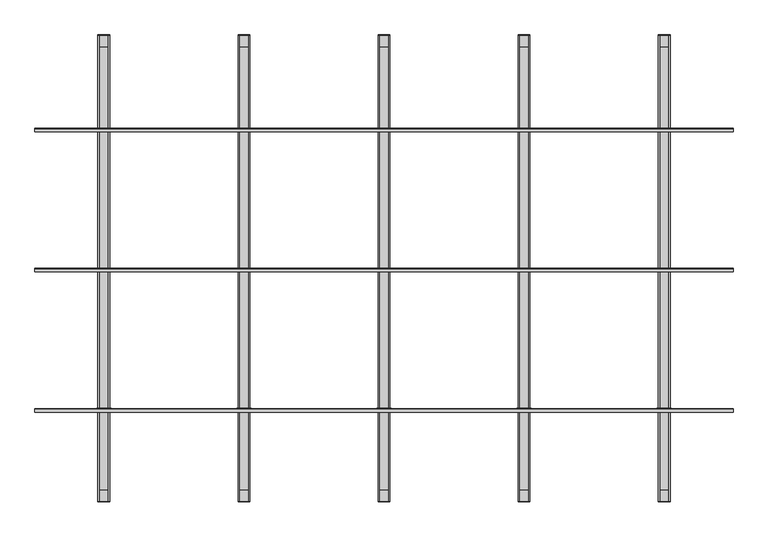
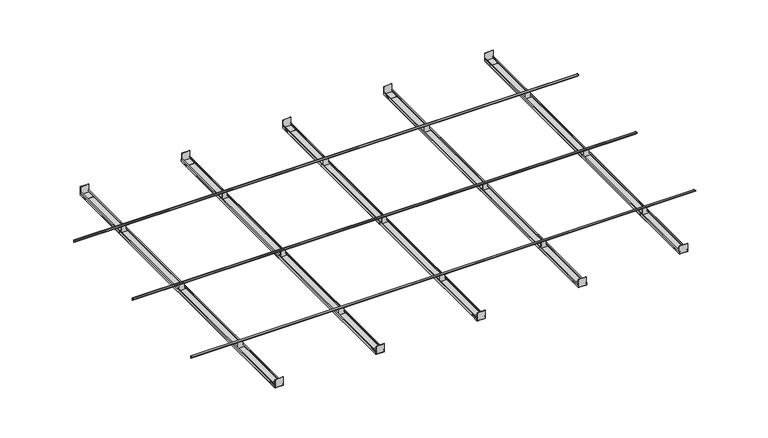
"""IFC4 building model written with IfcOpenShell, lengths in millimetres: proxy geometry, durlum_S5-100 _DOMUS : durlum_S5-100 _DOMUS."""

from ifc_helpers import new_model, si_unit, point, frame, frame_2d, origin, place, context, project, spatial, polyline, circle_curve, trimmed, segment, composite_curve, outline, extrude, source, transform, mapped, element, save


def generic_models_f9a1266b(model_context):
    return source(origin(), model_context, "Body", "SweptSolid", [
        extrude(outline(polyline([(1151.2053447, -1900.0), (1151.2053447, -1998.75), (1149.9553447, -1998.75), (1149.9553447, -1900.0), (1151.2053447, -1900.0)])), frame((0.0, 0.0, 3801.49723), z_axis=(0.0, 0.0, 1.0), x_axis=(1.0, 0.0, 0.0)), (0.0, 0.0, 1.0), 22.9482224),
        extrude(outline(polyline([(1248.7946553, -1900.0), (1250.0446553, -1900.0), (1250.0446553, -1998.75), (1248.7946553, -1998.75), (1248.7946553, -1900.0)])), frame((0.0, 0.0, 3801.49723), z_axis=(0.0, 0.0, 1.0), x_axis=(1.0, 0.0, 0.0)), (0.0, 0.0, 1.0), 22.9482224),
        extrude(outline(polyline([(-2000.0, 3801.49723), (-2000.0, 3901.49723), (-1998.75, 3901.49723), (-1998.75, 3802.74723), (-1900.0, 3802.74723), (-1900.0, 3801.49723), (-2000.0, 3801.49723)])), frame((1151.2053447, 0.0, 0.0), z_axis=(1.0, 0.0, 0.0), x_axis=(0.0, 1.0, 0.0)), (0.0, 0.0, 1.0), 97.5893106),
        extrude(outline(polyline([(-48.7946553, -1900.0), (-48.7946553, -1998.75), (-50.0446553, -1998.75), (-50.0446553, -1900.0), (-48.7946553, -1900.0)])), frame((0.0, 0.0, 3801.4981533), z_axis=(0.0, 0.0, 1.0), x_axis=(1.0, 0.0, 0.0)), (0.0, 0.0, 1.0), 22.9482224),
        extrude(outline(polyline([(48.7946553, -1900.0), (50.0446553, -1900.0), (50.0446553, -1998.75), (48.7946553, -1998.75), (48.7946553, -1900.0)])), frame((0.0, 0.0, 3801.4981533), z_axis=(0.0, 0.0, 1.0), x_axis=(1.0, 0.0, 0.0)), (0.0, 0.0, 1.0), 22.9482224),
        extrude(outline(polyline([(-2000.0, 3801.4981533), (-2000.0, 3901.4981533), (-1998.75, 3901.4981533), (-1998.75, 3802.7481533), (-1900.0, 3802.7481533), (-1900.0, 3801.4981533), (-2000.0, 3801.4981533)])), frame((-48.7946553, 0.0, 0.0), z_axis=(1.0, 0.0, 0.0), x_axis=(0.0, 1.0, 0.0)), (0.0, 0.0, 1.0), 97.5893106),
        extrude(outline(polyline([(1248.7946553, 1900.0), (1248.7946553, 1998.75), (1250.0446553, 1998.75), (1250.0446553, 1900.0), (1248.7946553, 1900.0)])), frame((0.0, 0.0, 3801.496446), z_axis=(0.0, 0.0, 1.0), x_axis=(1.0, 0.0, 0.0)), (0.0, 0.0, 1.0), 22.9482224),
        extrude(outline(polyline([(1151.2053447, 1900.0), (1149.9553447, 1900.0), (1149.9553447, 1998.75), (1151.2053447, 1998.75), (1151.2053447, 1900.0)])), frame((0.0, 0.0, 3801.496446), z_axis=(0.0, 0.0, 1.0), x_axis=(1.0, 0.0, 0.0)), (0.0, 0.0, 1.0), 22.9482224),
        extrude(outline(polyline([(2000.0, 3801.496446), (1900.0, 3801.496446), (1900.0, 3802.746446), (1998.75, 3802.746446), (1998.75, 3901.496446), (2000.0, 3901.496446), (2000.0, 3801.496446)])), frame((1151.2053447, 0.0, 0.0), z_axis=(1.0, 0.0, 0.0), x_axis=(0.0, 1.0, 0.0)), (0.0, 0.0, 1.0), 97.5893106),
        extrude(outline(polyline([(48.7946553, 1900.0), (48.7946553, 1998.75), (50.0446553, 1998.75), (50.0446553, 1900.0), (48.7946553, 1900.0)])), frame((0.0, 0.0, 3801.4976307), z_axis=(0.0, 0.0, 1.0), x_axis=(1.0, 0.0, 0.0)), (0.0, 0.0, 1.0), 22.9482224),
        extrude(outline(polyline([(-48.7946553, 1900.0), (-50.0446553, 1900.0), (-50.0446553, 1998.75), (-48.7946553, 1998.75), (-48.7946553, 1900.0)])), frame((0.0, 0.0, 3801.4976307), z_axis=(0.0, 0.0, 1.0), x_axis=(1.0, 0.0, 0.0)), (0.0, 0.0, 1.0), 22.9482224),
        extrude(outline(polyline([(2000.0, 3801.4976307), (1900.0, 3801.4976307), (1900.0, 3802.7476307), (1998.75, 3802.7476307), (1998.75, 3901.4976307), (2000.0, 3901.4976307), (2000.0, 3801.4976307)])), frame((-48.7946553, 0.0, 0.0), z_axis=(1.0, 0.0, 0.0), x_axis=(0.0, 1.0, 0.0)), (0.0, 0.0, 1.0), 97.5893106),
        extrude(outline(polyline([(3830.0, -1250.0), (3800.0, -1250.0), (3800.0, -1150.0), (3830.0, -1150.0), (3830.0, -1160.0), (3829.0, -1160.0), (3829.0, -1151.0), (3801.0, -1151.0), (3801.0, -1249.0), (3829.0, -1249.0), (3829.0, -1240.0), (3830.0, -1240.0), (3830.0, -1250.0)])), frame((0.0, -2000.0, 0.0), z_axis=(0.0, 1.0, 0.0), x_axis=(0.0, 0.0, 1.0)), (0.0, 0.0, 1.0), 4000.0),
        extrude(outline(polyline([(3830.0, -50.0), (3800.0, -50.0), (3800.0, 50.0), (3830.0, 50.0), (3830.0, 40.0), (3829.0, 40.0), (3829.0, 49.0), (3801.0, 49.0), (3801.0, -49.0), (3829.0, -49.0), (3829.0, -40.0), (3830.0, -40.0), (3830.0, -50.0)])), frame((0.0, -2000.0, 0.0), z_axis=(0.0, 1.0, 0.0), x_axis=(0.0, 0.0, 1.0)), (0.0, 0.0, 1.0), 4000.0),
        extrude(outline(polyline([(-1151.2053447, 1900.0), (-1151.2053447, 1998.75), (-1149.9553447, 1998.75), (-1149.9553447, 1900.0), (-1151.2053447, 1900.0)])), frame((0.0, 0.0, 3801.4988153), z_axis=(0.0, 0.0, 1.0), x_axis=(1.0, 0.0, 0.0)), (0.0, 0.0, 1.0), 22.9482224),
        extrude(outline(polyline([(-1248.7946553, 1900.0), (-1250.0446553, 1900.0), (-1250.0446553, 1998.75), (-1248.7946553, 1998.75), (-1248.7946553, 1900.0)])), frame((0.0, 0.0, 3801.4988153), z_axis=(0.0, 0.0, 1.0), x_axis=(1.0, 0.0, 0.0)), (0.0, 0.0, 1.0), 22.9482224),
        extrude(outline(polyline([(2000.0, 3801.4988153), (1900.0, 3801.4988153), (1900.0, 3802.7488153), (1998.75, 3802.7488153), (1998.75, 3901.4988153), (2000.0, 3901.4988153), (2000.0, 3801.4988153)])), frame((-1248.7946553, 0.0, 0.0), z_axis=(1.0, 0.0, 0.0), x_axis=(0.0, 1.0, 0.0)), (0.0, 0.0, 1.0), 97.5893106),
        extrude(outline(polyline([(-1248.7946553, -1900.0), (-1248.7946553, -1998.75), (-1250.0446553, -1998.75), (-1250.0446553, -1900.0), (-1248.7946553, -1900.0)])), frame((0.0, 0.0, 3801.4990767), z_axis=(0.0, 0.0, 1.0), x_axis=(1.0, 0.0, 0.0)), (0.0, 0.0, 1.0), 22.9482224),
        extrude(outline(polyline([(-1151.2053447, -1900.0), (-1149.9553447, -1900.0), (-1149.9553447, -1998.75), (-1151.2053447, -1998.75), (-1151.2053447, -1900.0)])), frame((0.0, 0.0, 3801.4990767), z_axis=(0.0, 0.0, 1.0), x_axis=(1.0, 0.0, 0.0)), (0.0, 0.0, 1.0), 22.9482224),
        extrude(outline(polyline([(-2000.0, 3801.4990767), (-2000.0, 3901.4990767), (-1998.75, 3901.4990767), (-1998.75, 3802.7490767), (-1900.0, 3802.7490767), (-1900.0, 3801.4990767), (-2000.0, 3801.4990767)])), frame((-1248.7946553, 0.0, 0.0), z_axis=(1.0, 0.0, 0.0), x_axis=(0.0, 1.0, 0.0)), (0.0, 0.0, 1.0), 97.5893106),
        extrude(outline(polyline([(2351.2053447, -1900.0), (2351.2053447, -1998.75), (2349.9553447, -1998.75), (2349.9553447, -1900.0), (2351.2053447, -1900.0)])), frame((0.0, 0.0, 3801.4963067), z_axis=(0.0, 0.0, 1.0), x_axis=(1.0, 0.0, 0.0)), (0.0, 0.0, 1.0), 22.9482224),
        extrude(outline(polyline([(2448.7946553, -1900.0), (2450.0446553, -1900.0), (2450.0446553, -1998.75), (2448.7946553, -1998.75), (2448.7946553, -1900.0)])), frame((0.0, 0.0, 3801.4963067), z_axis=(0.0, 0.0, 1.0), x_axis=(1.0, 0.0, 0.0)), (0.0, 0.0, 1.0), 22.9482224),
        extrude(outline(polyline([(-2000.0, 3801.4963067), (-2000.0, 3901.4963067), (-1998.75, 3901.4963067), (-1998.75, 3802.7463067), (-1900.0, 3802.7463067), (-1900.0, 3801.4963067), (-2000.0, 3801.4963067)])), frame((2351.2053447, 0.0, 0.0), z_axis=(1.0, 0.0, 0.0), x_axis=(0.0, 1.0, 0.0)), (0.0, 0.0, 1.0), 97.5893106),
        extrude(outline(polyline([(2448.7946553, 1900.0), (2448.7946553, 1998.75), (2450.0446553, 1998.75), (2450.0446553, 1900.0), (2448.7946553, 1900.0)])), frame((0.0, 0.0, 3801.4952613), z_axis=(0.0, 0.0, 1.0), x_axis=(1.0, 0.0, 0.0)), (0.0, 0.0, 1.0), 22.9482224),
        extrude(outline(polyline([(2351.2053447, 1900.0), (2349.9553447, 1900.0), (2349.9553447, 1998.75), (2351.2053447, 1998.75), (2351.2053447, 1900.0)])), frame((0.0, 0.0, 3801.4952613), z_axis=(0.0, 0.0, 1.0), x_axis=(1.0, 0.0, 0.0)), (0.0, 0.0, 1.0), 22.9482224),
        extrude(outline(polyline([(2000.0, 3801.4952613), (1900.0, 3801.4952613), (1900.0, 3802.7452613), (1998.75, 3802.7452613), (1998.75, 3901.4952613), (2000.0, 3901.4952613), (2000.0, 3801.4952613)])), frame((2351.2053447, 0.0, 0.0), z_axis=(1.0, 0.0, 0.0), x_axis=(0.0, 1.0, 0.0)), (0.0, 0.0, 1.0), 97.5893106),
        extrude(outline(polyline([(-2448.7946553, -1900.0), (-2448.7946553, -1998.75), (-2450.0446553, -1998.75), (-2450.0446553, -1900.0), (-2448.7946553, -1900.0)])), frame((0.0, 0.0, 3801.5), z_axis=(0.0, 0.0, 1.0), x_axis=(1.0, 0.0, 0.0)), (0.0, 0.0, 1.0), 22.9482224),
        extrude(outline(polyline([(-2351.2053447, -1900.0), (-2349.9553447, -1900.0), (-2349.9553447, -1998.75), (-2351.2053447, -1998.75), (-2351.2053447, -1900.0)])), frame((0.0, 0.0, 3801.5), z_axis=(0.0, 0.0, 1.0), x_axis=(1.0, 0.0, 0.0)), (0.0, 0.0, 1.0), 22.9482224),
        extrude(outline(polyline([(-2000.0, 3801.5), (-2000.0, 3901.5), (-1998.75, 3901.5), (-1998.75, 3802.75), (-1900.0, 3802.75), (-1900.0, 3801.5), (-2000.0, 3801.5)])), frame((-2448.7946553, 0.0, 0.0), z_axis=(1.0, 0.0, 0.0), x_axis=(0.0, 1.0, 0.0)), (0.0, 0.0, 1.0), 97.5893106),
        extrude(outline(polyline([(-2351.2053447, 1900.0), (-2351.2053447, 1998.75), (-2349.9553447, 1998.75), (-2349.9553447, 1900.0), (-2351.2053447, 1900.0)])), frame((0.0, 0.0, 3801.5), z_axis=(0.0, 0.0, 1.0), x_axis=(1.0, 0.0, 0.0)), (0.0, 0.0, 1.0), 22.9482224),
        extrude(outline(polyline([(-2448.7946553, 1900.0), (-2450.0446553, 1900.0), (-2450.0446553, 1998.75), (-2448.7946553, 1998.75), (-2448.7946553, 1900.0)])), frame((0.0, 0.0, 3801.5), z_axis=(0.0, 0.0, 1.0), x_axis=(1.0, 0.0, 0.0)), (0.0, 0.0, 1.0), 22.9482224),
        extrude(outline(polyline([(2000.0, 3801.5), (1900.0, 3801.5), (1900.0, 3802.75), (1998.75, 3802.75), (1998.75, 3901.5), (2000.0, 3901.5), (2000.0, 3801.5)])), frame((-2448.7946553, 0.0, 0.0), z_axis=(1.0, 0.0, 0.0), x_axis=(0.0, 1.0, 0.0)), (0.0, 0.0, 1.0), 97.5893106),
        extrude(outline(polyline([(3825.0, -1151.7190114), (3825.0, -1153.1717956), (3820.9590465, -1153.1717956), (3820.9590465, -1171.9750683), (3872.9865783, -1171.9750683), (3872.9865783, -1137.653609), (3900.0, -1137.653609), (3900.0, -1262.346391), (3872.9865783, -1262.346391), (3872.9865783, -1228.0249317), (3820.9590465, -1228.0249317), (3820.9590465, -1246.8282044), (3825.0, -1246.8282044), (3825.0, -1248.2809886), (3800.0, -1248.2809886), (3800.0, -1151.7190114), (3825.0, -1151.7190114)])), frame((0.0, 0.0, 0.0), z_axis=(0.0, 1.0, 0.0), x_axis=(0.0, 0.0, 1.0)), (0.0, 0.0, 1.0), 1.9953756),
        extrude(outline(polyline([(3825.0, 48.2809886), (3825.0, 46.8282044), (3820.9590465, 46.8282044), (3820.9590465, 28.0249317), (3872.9865783, 28.0249317), (3872.9865783, 62.346391), (3900.0, 62.346391), (3900.0, -62.346391), (3872.9865783, -62.346391), (3872.9865783, -28.0249317), (3820.9590465, -28.0249317), (3820.9590465, -46.8282044), (3825.0, -46.8282044), (3825.0, -48.2809886), (3800.0, -48.2809886), (3800.0, 48.2809886), (3825.0, 48.2809886)])), frame((0.0, 0.0, 0.0), z_axis=(0.0, 1.0, 0.0), x_axis=(0.0, 0.0, 1.0)), (0.0, 0.0, 1.0), 1.9953756),
        extrude(outline(polyline([(3825.0, 1248.2809886), (3825.0, 1246.8282044), (3820.9590465, 1246.8282044), (3820.9590465, 1228.0249317), (3872.9865783, 1228.0249317), (3872.9865783, 1262.346391), (3900.0, 1262.346391), (3900.0, 1137.653609), (3872.9865783, 1137.653609), (3872.9865783, 1171.9750683), (3820.9590465, 1171.9750683), (3820.9590465, 1153.1717956), (3825.0, 1153.1717956), (3825.0, 1151.7190114), (3800.0, 1151.7190114), (3800.0, 1248.2809886), (3825.0, 1248.2809886)])), frame((0.0, 0.0, 0.0), z_axis=(0.0, 1.0, 0.0), x_axis=(0.0, 0.0, 1.0)), (0.0, 0.0, 1.0), 1.9953756),
        extrude(outline(polyline([(3825.0, -2351.7190114), (3825.0, -2353.1717956), (3820.9590465, -2353.1717956), (3820.9590465, -2371.9750683), (3872.9865783, -2371.9750683), (3872.9865783, -2337.653609), (3900.0, -2337.653609), (3900.0, -2462.346391), (3872.9865783, -2462.346391), (3872.9865783, -2428.0249317), (3820.9590465, -2428.0249317), (3820.9590465, -2446.8282044), (3825.0, -2446.8282044), (3825.0, -2448.2809886), (3800.0, -2448.2809886), (3800.0, -2351.7190114), (3825.0, -2351.7190114)])), frame((0.0, 0.0, 0.0), z_axis=(0.0, 1.0, 0.0), x_axis=(0.0, 0.0, 1.0)), (0.0, 0.0, 1.0), 1.9953756),
        extrude(outline(polyline([(3825.0, 2448.2809886), (3825.0, 2446.8282044), (3820.9590465, 2446.8282044), (3820.9590465, 2428.0249317), (3872.9865783, 2428.0249317), (3872.9865783, 2462.346391), (3900.0, 2462.346391), (3900.0, 2337.653609), (3872.9865783, 2337.653609), (3872.9865783, 2371.9750683), (3820.9590465, 2371.9750683), (3820.9590465, 2353.1717956), (3825.0, 2353.1717956), (3825.0, 2351.7190114), (3800.0, 2351.7190114), (3800.0, 2448.2809886), (3825.0, 2448.2809886)])), frame((0.0, 0.0, 0.0), z_axis=(0.0, 1.0, 0.0), x_axis=(0.0, 0.0, 1.0)), (0.0, 0.0, 1.0), 1.9953756),
        extrude(outline(composite_curve([segment(polyline([(-2.0, 3876.1), (-2.0, 3902.0)]), True, "CONTINUOUS"), segment(trimmed(circle_curve(frame_2d((-4.0, 3902.0)), 2.0), [point((-2.0, 3902.0))], [point((-4.0, 3904.0))], True, "CARTESIAN"), True, "CONTINUOUS"), segment(polyline([(-4.0, 3904.0), (-29.9, 3904.0), (-29.9, 3906.0), (-4.0, 3906.0)]), True, "CONTINUOUS"), segment(trimmed(circle_curve(frame_2d((-4.0, 3902.0)), 4.0), [point((-4.0, 3906.0))], [point((0.0, 3902.0))], False, "CARTESIAN"), True, "CONTINUOUS"), segment(polyline([(0.0, 3902.0), (0.0, 3876.1), (-2.0, 3876.1)]), True, "CONTINUOUS")], self_intersect=False)), frame((-2990.0, 0.0, 0.0), z_axis=(1.0, 0.0, 0.0), x_axis=(0.0, 1.0, 0.0)), (0.0, 0.0, 1.0), 5980.0),
        extrude(outline(polyline([(3825.0, -1151.7190114), (3825.0, -1153.1717956), (3820.9590465, -1153.1717956), (3820.9590465, -1171.9750683), (3872.9865783, -1171.9750683), (3872.9865783, -1137.653609), (3900.0, -1137.653609), (3900.0, -1262.346391), (3872.9865783, -1262.346391), (3872.9865783, -1228.0249317), (3820.9590465, -1228.0249317), (3820.9590465, -1246.8282044), (3825.0, -1246.8282044), (3825.0, -1248.2809886), (3800.0, -1248.2809886), (3800.0, -1151.7190114), (3825.0, -1151.7190114)])), frame((0.0, -1200.0, 0.0), z_axis=(0.0, 1.0, 0.0), x_axis=(0.0, 0.0, 1.0)), (0.0, 0.0, 1.0), 1.9953756),
        extrude(outline(polyline([(3825.0, 48.2809886), (3825.0, 46.8282044), (3820.9590465, 46.8282044), (3820.9590465, 28.0249317), (3872.9865783, 28.0249317), (3872.9865783, 62.346391), (3900.0, 62.346391), (3900.0, -62.346391), (3872.9865783, -62.346391), (3872.9865783, -28.0249317), (3820.9590465, -28.0249317), (3820.9590465, -46.8282044), (3825.0, -46.8282044), (3825.0, -48.2809886), (3800.0, -48.2809886), (3800.0, 48.2809886), (3825.0, 48.2809886)])), frame((0.0, -1200.0, 0.0), z_axis=(0.0, 1.0, 0.0), x_axis=(0.0, 0.0, 1.0)), (0.0, 0.0, 1.0), 1.9953756),
        extrude(outline(polyline([(3825.0, 1248.2809886), (3825.0, 1246.8282044), (3820.9590465, 1246.8282044), (3820.9590465, 1228.0249317), (3872.9865783, 1228.0249317), (3872.9865783, 1262.346391), (3900.0, 1262.346391), (3900.0, 1137.653609), (3872.9865783, 1137.653609), (3872.9865783, 1171.9750683), (3820.9590465, 1171.9750683), (3820.9590465, 1153.1717956), (3825.0, 1153.1717956), (3825.0, 1151.7190114), (3800.0, 1151.7190114), (3800.0, 1248.2809886), (3825.0, 1248.2809886)])), frame((0.0, -1200.0, 0.0), z_axis=(0.0, 1.0, 0.0), x_axis=(0.0, 0.0, 1.0)), (0.0, 0.0, 1.0), 1.9953756),
        extrude(outline(polyline([(3825.0, -2351.7190114), (3825.0, -2353.1717956), (3820.9590465, -2353.1717956), (3820.9590465, -2371.9750683), (3872.9865783, -2371.9750683), (3872.9865783, -2337.653609), (3900.0, -2337.653609), (3900.0, -2462.346391), (3872.9865783, -2462.346391), (3872.9865783, -2428.0249317), (3820.9590465, -2428.0249317), (3820.9590465, -2446.8282044), (3825.0, -2446.8282044), (3825.0, -2448.2809886), (3800.0, -2448.2809886), (3800.0, -2351.7190114), (3825.0, -2351.7190114)])), frame((0.0, -1200.0, 0.0), z_axis=(0.0, 1.0, 0.0), x_axis=(0.0, 0.0, 1.0)), (0.0, 0.0, 1.0), 1.9953756),
        extrude(outline(polyline([(3825.0, 2448.2809886), (3825.0, 2446.8282044), (3820.9590465, 2446.8282044), (3820.9590465, 2428.0249317), (3872.9865783, 2428.0249317), (3872.9865783, 2462.346391), (3900.0, 2462.346391), (3900.0, 2337.653609), (3872.9865783, 2337.653609), (3872.9865783, 2371.9750683), (3820.9590465, 2371.9750683), (3820.9590465, 2353.1717956), (3825.0, 2353.1717956), (3825.0, 2351.7190114), (3800.0, 2351.7190114), (3800.0, 2448.2809886), (3825.0, 2448.2809886)])), frame((0.0, -1200.0, 0.0), z_axis=(0.0, 1.0, 0.0), x_axis=(0.0, 0.0, 1.0)), (0.0, 0.0, 1.0), 1.9953756),
        extrude(outline(composite_curve([segment(polyline([(-1202.0, 3876.1), (-1202.0, 3902.0)]), True, "CONTINUOUS"), segment(trimmed(circle_curve(frame_2d((-1204.0, 3902.0)), 2.0), [point((-1202.0, 3902.0))], [point((-1204.0, 3904.0))], True, "CARTESIAN"), True, "CONTINUOUS"), segment(polyline([(-1204.0, 3904.0), (-1229.9, 3904.0), (-1229.9, 3906.0), (-1204.0, 3906.0)]), True, "CONTINUOUS"), segment(trimmed(circle_curve(frame_2d((-1204.0, 3902.0)), 4.0), [point((-1204.0, 3906.0))], [point((-1200.0, 3902.0))], False, "CARTESIAN"), True, "CONTINUOUS"), segment(polyline([(-1200.0, 3902.0), (-1200.0, 3876.1), (-1202.0, 3876.1)]), True, "CONTINUOUS")], self_intersect=False)), frame((-2990.0, 0.0, 0.0), z_axis=(1.0, 0.0, 0.0), x_axis=(0.0, 1.0, 0.0)), (0.0, 0.0, 1.0), 5980.0),
        extrude(outline(polyline([(3830.0, 1150.0), (3800.0, 1150.0), (3800.0, 1250.0), (3830.0, 1250.0), (3830.0, 1240.0), (3829.0, 1240.0), (3829.0, 1249.0), (3801.0, 1249.0), (3801.0, 1151.0), (3829.0, 1151.0), (3829.0, 1160.0), (3830.0, 1160.0), (3830.0, 1150.0)])), frame((0.0, -2000.0, 0.0), z_axis=(0.0, 1.0, 0.0), x_axis=(0.0, 0.0, 1.0)), (0.0, 0.0, 1.0), 4000.0),
        extrude(outline(polyline([(3830.0, -2450.0), (3800.0, -2450.0), (3800.0, -2350.0), (3830.0, -2350.0), (3830.0, -2360.0), (3829.0, -2360.0), (3829.0, -2351.0), (3801.0, -2351.0), (3801.0, -2449.0), (3829.0, -2449.0), (3829.0, -2440.0), (3830.0, -2440.0), (3830.0, -2450.0)])), frame((0.0, -2000.0, 0.0), z_axis=(0.0, 1.0, 0.0), x_axis=(0.0, 0.0, 1.0)), (0.0, 0.0, 1.0), 4000.0),
        extrude(outline(polyline([(3830.0, 2350.0), (3800.0, 2350.0), (3800.0, 2450.0), (3830.0, 2450.0), (3830.0, 2440.0), (3829.0, 2440.0), (3829.0, 2449.0), (3801.0, 2449.0), (3801.0, 2351.0), (3829.0, 2351.0), (3829.0, 2360.0), (3830.0, 2360.0), (3830.0, 2350.0)])), frame((0.0, -2000.0, 0.0), z_axis=(0.0, 1.0, 0.0), x_axis=(0.0, 0.0, 1.0)), (0.0, 0.0, 1.0), 4000.0),
        extrude(outline(polyline([(3825.0, -1151.7190114), (3825.0, -1153.1717956), (3820.9590465, -1153.1717956), (3820.9590465, -1171.9750683), (3872.9865783, -1171.9750683), (3872.9865783, -1137.653609), (3900.0, -1137.653609), (3900.0, -1262.346391), (3872.9865783, -1262.346391), (3872.9865783, -1228.0249317), (3820.9590465, -1228.0249317), (3820.9590465, -1246.8282044), (3825.0, -1246.8282044), (3825.0, -1248.2809886), (3800.0, -1248.2809886), (3800.0, -1151.7190114), (3825.0, -1151.7190114)])), frame((0.0, 1200.0, 0.0), z_axis=(0.0, 1.0, 0.0), x_axis=(0.0, 0.0, 1.0)), (0.0, 0.0, 1.0), 1.9953756),
        extrude(outline(polyline([(3825.0, 48.2809886), (3825.0, 46.8282044), (3820.9590465, 46.8282044), (3820.9590465, 28.0249317), (3872.9865783, 28.0249317), (3872.9865783, 62.346391), (3900.0, 62.346391), (3900.0, -62.346391), (3872.9865783, -62.346391), (3872.9865783, -28.0249317), (3820.9590465, -28.0249317), (3820.9590465, -46.8282044), (3825.0, -46.8282044), (3825.0, -48.2809886), (3800.0, -48.2809886), (3800.0, 48.2809886), (3825.0, 48.2809886)])), frame((0.0, 1200.0, 0.0), z_axis=(0.0, 1.0, 0.0), x_axis=(0.0, 0.0, 1.0)), (0.0, 0.0, 1.0), 1.9953756),
        extrude(outline(polyline([(3825.0, 1248.2809886), (3825.0, 1246.8282044), (3820.9590465, 1246.8282044), (3820.9590465, 1228.0249317), (3872.9865783, 1228.0249317), (3872.9865783, 1262.346391), (3900.0, 1262.346391), (3900.0, 1137.653609), (3872.9865783, 1137.653609), (3872.9865783, 1171.9750683), (3820.9590465, 1171.9750683), (3820.9590465, 1153.1717956), (3825.0, 1153.1717956), (3825.0, 1151.7190114), (3800.0, 1151.7190114), (3800.0, 1248.2809886), (3825.0, 1248.2809886)])), frame((0.0, 1200.0, 0.0), z_axis=(0.0, 1.0, 0.0), x_axis=(0.0, 0.0, 1.0)), (0.0, 0.0, 1.0), 1.9953756),
        extrude(outline(polyline([(3825.0, -2351.7190114), (3825.0, -2353.1717956), (3820.9590465, -2353.1717956), (3820.9590465, -2371.9750683), (3872.9865783, -2371.9750683), (3872.9865783, -2337.653609), (3900.0, -2337.653609), (3900.0, -2462.346391), (3872.9865783, -2462.346391), (3872.9865783, -2428.0249317), (3820.9590465, -2428.0249317), (3820.9590465, -2446.8282044), (3825.0, -2446.8282044), (3825.0, -2448.2809886), (3800.0, -2448.2809886), (3800.0, -2351.7190114), (3825.0, -2351.7190114)])), frame((0.0, 1200.0, 0.0), z_axis=(0.0, 1.0, 0.0), x_axis=(0.0, 0.0, 1.0)), (0.0, 0.0, 1.0), 1.9953756),
        extrude(outline(polyline([(3825.0, 2448.2809886), (3825.0, 2446.8282044), (3820.9590465, 2446.8282044), (3820.9590465, 2428.0249317), (3872.9865783, 2428.0249317), (3872.9865783, 2462.346391), (3900.0, 2462.346391), (3900.0, 2337.653609), (3872.9865783, 2337.653609), (3872.9865783, 2371.9750683), (3820.9590465, 2371.9750683), (3820.9590465, 2353.1717956), (3825.0, 2353.1717956), (3825.0, 2351.7190114), (3800.0, 2351.7190114), (3800.0, 2448.2809886), (3825.0, 2448.2809886)])), frame((0.0, 1200.0, 0.0), z_axis=(0.0, 1.0, 0.0), x_axis=(0.0, 0.0, 1.0)), (0.0, 0.0, 1.0), 1.9953756),
        extrude(outline(composite_curve([segment(polyline([(1198.0, 3876.1), (1198.0, 3902.0)]), True, "CONTINUOUS"), segment(trimmed(circle_curve(frame_2d((1196.0, 3902.0)), 2.0), [point((1198.0, 3902.0))], [point((1196.0, 3904.0))], True, "CARTESIAN"), True, "CONTINUOUS"), segment(polyline([(1196.0, 3904.0), (1170.1, 3904.0), (1170.1, 3906.0), (1196.0, 3906.0)]), True, "CONTINUOUS"), segment(trimmed(circle_curve(frame_2d((1196.0, 3902.0)), 4.0), [point((1196.0, 3906.0))], [point((1200.0, 3902.0))], False, "CARTESIAN"), True, "CONTINUOUS"), segment(polyline([(1200.0, 3902.0), (1200.0, 3876.1), (1198.0, 3876.1)]), True, "CONTINUOUS")], self_intersect=False)), frame((-2990.0, 0.0, 0.0), z_axis=(1.0, 0.0, 0.0), x_axis=(0.0, 1.0, 0.0)), (0.0, 0.0, 1.0), 5980.0),
    ])


if __name__ == "__main__":
    model = new_model("IFC4")
    model_context = context("Model", 3, world=origin())
    ifc_project = project(units=[si_unit("LENGTHUNIT", "METRE", prefix="MILLI")], contexts=[model_context])
    site = spatial("IfcSite", under=ifc_project)
    building = spatial("IfcBuilding", under=site)
    placement = place(None, origin())
    generic_models_shape = generic_models_f9a1266b(model_context)
    element("IfcBuildingElementProxy", 1, Name="durlum_S5-100 _DOMUS : durlum_S5-100 _DOMUS", ObjectType="durlum_S5-100 _DOMUS : durlum_S5-100 _DOMUS", at=placement, inside=building, context=model_context, shape_type="MappedRepresentation", body=[
        mapped(generic_models_shape, transform((0.0, 0.0, 0.0), x_axis=(1.0, 0.0, 0.0), y_axis=(0.0, 1.0, 0.0), z_axis=(0.0, 0.0, 1.0))),
    ])
    save(model, "model.ifc")
